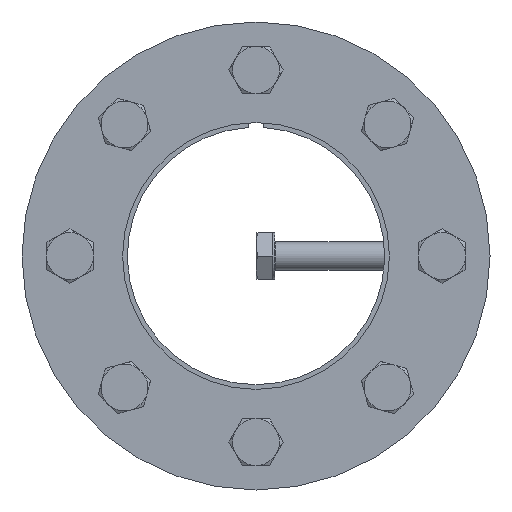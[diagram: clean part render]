
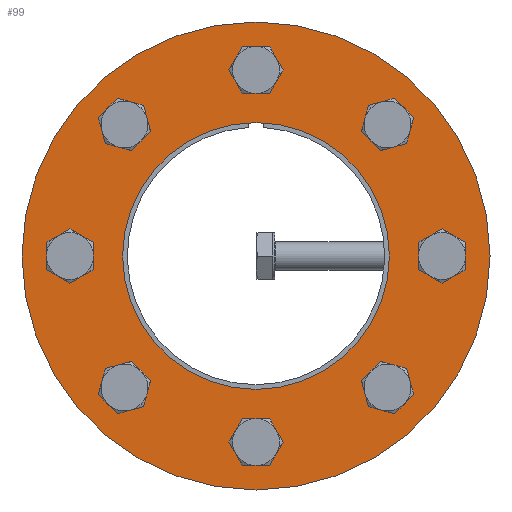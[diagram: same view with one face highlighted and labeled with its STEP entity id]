
A CAD part, front view. The second image highlights one B-rep face of the part: STEP entity #99.
In plain terms, the highlighted planar face has unit normal (0, -1, 0).
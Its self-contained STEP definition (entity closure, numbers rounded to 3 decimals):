
#99 = ADVANCED_FACE( '', ( #241, #242, #243, #244, #245, #246, #247, #248, #249, #250 ), #251, .F. );
#241 = FACE_BOUND( '', #446, .T. );
#242 = FACE_BOUND( '', #447, .T. );
#243 = FACE_BOUND( '', #448, .T. );
#244 = FACE_BOUND( '', #449, .T. );
#245 = FACE_BOUND( '', #450, .T. );
#246 = FACE_OUTER_BOUND( '', #451, .T. );
#247 = FACE_BOUND( '', #452, .T. );
#248 = FACE_BOUND( '', #453, .T. );
#249 = FACE_BOUND( '', #454, .T. );
#250 = FACE_BOUND( '', #455, .T. );
#251 = PLANE( '', #456 );
#446 = EDGE_LOOP( '', ( #703 ) );
#447 = EDGE_LOOP( '', ( #704 ) );
#448 = EDGE_LOOP( '', ( #705 ) );
#449 = EDGE_LOOP( '', ( #706 ) );
#450 = EDGE_LOOP( '', ( #707 ) );
#451 = EDGE_LOOP( '', ( #708 ) );
#452 = EDGE_LOOP( '', ( #709 ) );
#453 = EDGE_LOOP( '', ( #710 ) );
#454 = EDGE_LOOP( '', ( #711 ) );
#455 = EDGE_LOOP( '', ( #712 ) );
#456 = AXIS2_PLACEMENT_3D( '', #713, #714, #715 );
#703 = ORIENTED_EDGE( '', *, *, #1039, .T. );
#704 = ORIENTED_EDGE( '', *, *, #1037, .T. );
#705 = ORIENTED_EDGE( '', *, *, #1035, .T. );
#706 = ORIENTED_EDGE( '', *, *, #1010, .T. );
#707 = ORIENTED_EDGE( '', *, *, #1033, .F. );
#708 = ORIENTED_EDGE( '', *, *, #1040, .T. );
#709 = ORIENTED_EDGE( '', *, *, #1041, .T. );
#710 = ORIENTED_EDGE( '', *, *, #1042, .T. );
#711 = ORIENTED_EDGE( '', *, *, #1043, .T. );
#712 = ORIENTED_EDGE( '', *, *, #1044, .T. );
#713 = CARTESIAN_POINT( '', ( 0., -15.25, 50. ) );
#714 = DIRECTION( '', ( 0., 1., 0. ) );
#715 = DIRECTION( '', ( 0., 0., 1. ) );
#1010 = EDGE_CURVE( '', #1198, #1198, #1199, .T. );
#1033 = EDGE_CURVE( '', #1240, #1240, #1241, .T. );
#1035 = EDGE_CURVE( '', #1243, #1243, #1244, .T. );
#1037 = EDGE_CURVE( '', #1246, #1246, #1247, .T. );
#1039 = EDGE_CURVE( '', #1249, #1249, #1250, .T. );
#1040 = EDGE_CURVE( '', #1251, #1251, #1252, .T. );
#1041 = EDGE_CURVE( '', #1253, #1253, #1254, .T. );
#1042 = EDGE_CURVE( '', #1255, #1255, #1256, .T. );
#1043 = EDGE_CURVE( '', #1257, #1257, #1258, .T. );
#1044 = EDGE_CURVE( '', #1259, #1259, #1260, .T. );
#1198 = VERTEX_POINT( '', #1558 );
#1199 = CIRCLE( '', #1559, 3. );
#1240 = VERTEX_POINT( '', #1603 );
#1241 = CIRCLE( '', #1604, 28.5 );
#1243 = VERTEX_POINT( '', #1606 );
#1244 = CIRCLE( '', #1607, 3. );
#1246 = VERTEX_POINT( '', #1609 );
#1247 = CIRCLE( '', #1610, 3. );
#1249 = VERTEX_POINT( '', #1612 );
#1250 = CIRCLE( '', #1613, 3. );
#1251 = VERTEX_POINT( '', #1614 );
#1252 = CIRCLE( '', #1615, 50. );
#1253 = VERTEX_POINT( '', #1616 );
#1254 = CIRCLE( '', #1617, 3. );
#1255 = VERTEX_POINT( '', #1618 );
#1256 = CIRCLE( '', #1619, 3. );
#1257 = VERTEX_POINT( '', #1620 );
#1258 = CIRCLE( '', #1621, 3. );
#1259 = VERTEX_POINT( '', #1622 );
#1260 = CIRCLE( '', #1623, 3. );
#1558 = CARTESIAN_POINT( '', ( 3., -15.25, 39.75 ) );
#1559 = AXIS2_PLACEMENT_3D( '', #1816, #1817, #1818 );
#1603 = CARTESIAN_POINT( '', ( 0., -15.25, -28.5 ) );
#1604 = AXIS2_PLACEMENT_3D( '', #1867, #1868, #1869 );
#1606 = CARTESIAN_POINT( '', ( 39.75, -15.25, -3. ) );
#1607 = AXIS2_PLACEMENT_3D( '', #1870, #1871, #1872 );
#1609 = CARTESIAN_POINT( '', ( -3., -15.25, -39.75 ) );
#1610 = AXIS2_PLACEMENT_3D( '', #1873, #1874, #1875 );
#1612 = CARTESIAN_POINT( '', ( -39.75, -15.25, 3. ) );
#1613 = AXIS2_PLACEMENT_3D( '', #1876, #1877, #1878 );
#1614 = CARTESIAN_POINT( '', ( 0., -15.25, -50. ) );
#1615 = AXIS2_PLACEMENT_3D( '', #1879, #1880, #1881 );
#1616 = CARTESIAN_POINT( '', ( 30.229, -15.25, 25.986 ) );
#1617 = AXIS2_PLACEMENT_3D( '', #1882, #1883, #1884 );
#1618 = CARTESIAN_POINT( '', ( 25.986, -15.25, -30.229 ) );
#1619 = AXIS2_PLACEMENT_3D( '', #1885, #1886, #1887 );
#1620 = CARTESIAN_POINT( '', ( -30.229, -15.25, -25.986 ) );
#1621 = AXIS2_PLACEMENT_3D( '', #1888, #1889, #1890 );
#1622 = CARTESIAN_POINT( '', ( -25.986, -15.25, 30.229 ) );
#1623 = AXIS2_PLACEMENT_3D( '', #1891, #1892, #1893 );
#1816 = CARTESIAN_POINT( '', ( 0., -15.25, 39.75 ) );
#1817 = DIRECTION( '', ( 0., 1., 0. ) );
#1818 = DIRECTION( '', ( 1., 0., 0. ) );
#1867 = CARTESIAN_POINT( '', ( 0., -15.25, 0. ) );
#1868 = DIRECTION( '', ( 0., -1., 0. ) );
#1869 = DIRECTION( '', ( 0., 0., -1. ) );
#1870 = CARTESIAN_POINT( '', ( 39.75, -15.25, 0. ) );
#1871 = DIRECTION( '', ( 0., 1., 0. ) );
#1872 = DIRECTION( '', ( 0., 0., -1. ) );
#1873 = CARTESIAN_POINT( '', ( 0., -15.25, -39.75 ) );
#1874 = DIRECTION( '', ( 0., 1., 0. ) );
#1875 = DIRECTION( '', ( -1., 0., 0. ) );
#1876 = CARTESIAN_POINT( '', ( -39.75, -15.25, 0. ) );
#1877 = DIRECTION( '', ( 0., 1., 0. ) );
#1878 = DIRECTION( '', ( 0., 0., 1. ) );
#1879 = CARTESIAN_POINT( '', ( 0., -15.25, 0. ) );
#1880 = DIRECTION( '', ( 0., -1., 0. ) );
#1881 = DIRECTION( '', ( 0., 0., -1. ) );
#1882 = CARTESIAN_POINT( '', ( 28.107, -15.25, 28.107 ) );
#1883 = DIRECTION( '', ( 0., 1., 0. ) );
#1884 = DIRECTION( '', ( 0.707, 0., -0.707 ) );
#1885 = CARTESIAN_POINT( '', ( 28.107, -15.25, -28.107 ) );
#1886 = DIRECTION( '', ( 0., 1., 0. ) );
#1887 = DIRECTION( '', ( -0.707, 0., -0.707 ) );
#1888 = CARTESIAN_POINT( '', ( -28.107, -15.25, -28.107 ) );
#1889 = DIRECTION( '', ( 0., 1., 0. ) );
#1890 = DIRECTION( '', ( -0.707, 0., 0.707 ) );
#1891 = CARTESIAN_POINT( '', ( -28.107, -15.25, 28.107 ) );
#1892 = DIRECTION( '', ( 0., 1., 0. ) );
#1893 = DIRECTION( '', ( 0.707, 0., 0.707 ) );
